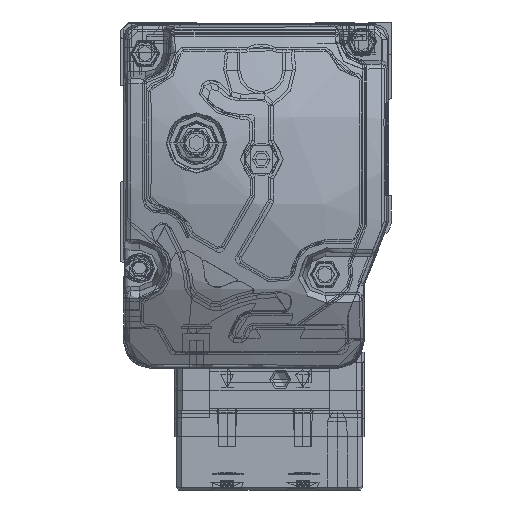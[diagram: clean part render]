
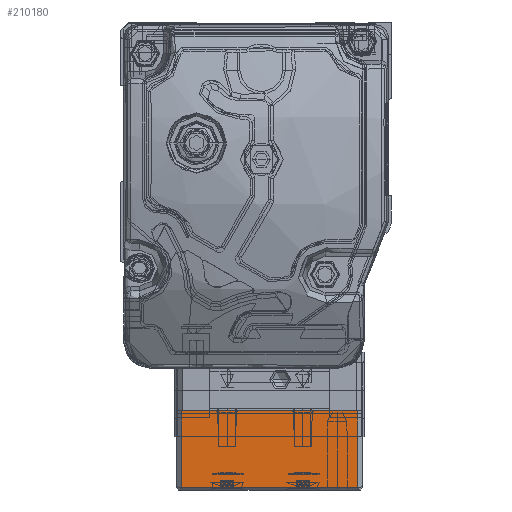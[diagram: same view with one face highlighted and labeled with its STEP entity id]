
A CAD part, left-side view. The second image highlights one B-rep face of the part: STEP entity #210180.
In plain terms, the highlighted planar face has unit normal (-1, 0, 0) as drawn and (0, 1, 0) by its records, which use the part's own axes.
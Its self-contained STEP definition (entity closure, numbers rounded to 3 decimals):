
#127410=CARTESIAN_POINT('',(256.2,137.891,
-152.076));
#127420=VERTEX_POINT('',#127410);
#127450=CARTESIAN_POINT('',(256.2,137.891,
-151.076));
#127460=DIRECTION('',(0.,0.,-1.));
#127470=VECTOR('',#127460,1.);
#127480=LINE('',#127450,#127470);
#127490=CARTESIAN_POINT('',(256.2,137.891,
-166.176));
#127500=VERTEX_POINT('',#127490);
#127510=EDGE_CURVE('',#127420,#127500,#127480,.T.);
#128030=CARTESIAN_POINT('',(223.7,137.891,
-166.176));
#128040=VERTEX_POINT('',#128030);
#128070=CARTESIAN_POINT('',(223.7,137.891,
-151.076));
#128080=DIRECTION('',(0.,0.,1.));
#128090=VECTOR('',#128080,1.);
#128100=LINE('',#128070,#128090);
#128110=CARTESIAN_POINT('',(223.7,137.891,
-152.076));
#128120=VERTEX_POINT('',#128110);
#128130=EDGE_CURVE('',#128040,#128120,#128100,.T.);
#166330=CARTESIAN_POINT('',(311.457,137.891,
-152.076));
#166340=DIRECTION('',(1.,0.,0.));
#166350=VECTOR('',#166340,1.);
#166360=LINE('',#166330,#166350);
#166370=EDGE_CURVE('',#128120,#127420,#166360,.T.);
#209960=CARTESIAN_POINT('',(311.457,137.891,
-166.176));
#209970=DIRECTION('',(1.,0.,0.));
#209980=VECTOR('',#209970,1.);
#209990=LINE('',#209960,#209980);
#210000=EDGE_CURVE('',#128040,#127500,#209990,.T.);
#210070=CARTESIAN_POINT('',(241.191,137.891,
-166.176));
#210080=DIRECTION('',(0.,1.,0.));
#210090=DIRECTION('',(1.,0.,0.));
#210100=AXIS2_PLACEMENT_3D('',#210070,#210080,#210090);
#210110=PLANE('',#210100);
#210120=ORIENTED_EDGE('',*,*,#210000,.F.);
#210130=ORIENTED_EDGE('',*,*,#127510,.T.);
#210140=ORIENTED_EDGE('',*,*,#166370,.T.);
#210150=ORIENTED_EDGE('',*,*,#128130,.T.);
#210160=EDGE_LOOP('',(#210150,#210140,#210130,#210120));
#210170=FACE_OUTER_BOUND('',#210160,.T.);
#210180=ADVANCED_FACE('',(#210170),#210110,.T.);
